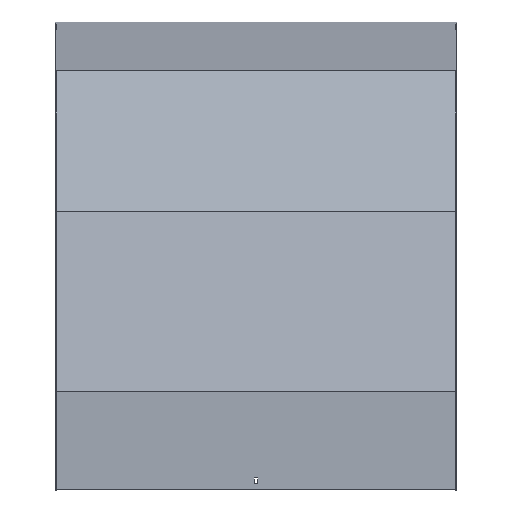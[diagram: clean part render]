
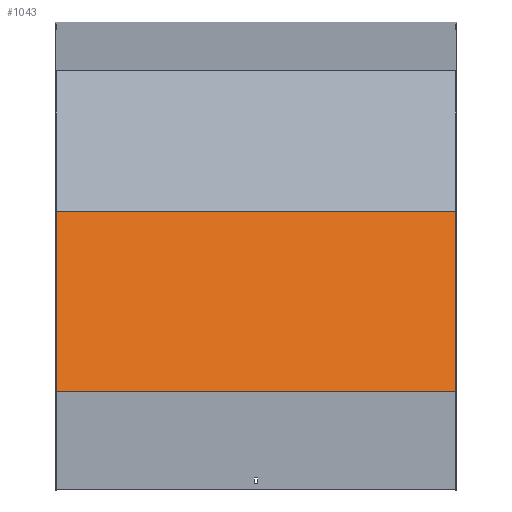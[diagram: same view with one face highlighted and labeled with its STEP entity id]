
A CAD part, top view. The second image highlights one B-rep face of the part: STEP entity #1043.
In plain terms, the highlighted planar face has unit normal (0, 0.259, 0.966).
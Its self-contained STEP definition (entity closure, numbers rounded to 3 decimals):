
#186 = CARTESIAN_POINT ( 'NONE',  ( 351.5, -311.92, 735.771 ) ) ;
#207 = VERTEX_POINT ( 'NONE', #246 ) ;
#212 = VERTEX_POINT ( 'NONE', #356 ) ;
#242 = CARTESIAN_POINT ( 'NONE',  ( 351.5, -627.77, 820.403 ) ) ;
#246 = CARTESIAN_POINT ( 'NONE',  ( 351.5, -311.92, 735.771 ) ) ;
#267 = LINE ( 'NONE', #1092, #524 ) ;
#302 = ORIENTED_EDGE ( 'NONE', *, *, #930, .T. ) ;
#307 = VECTOR ( 'NONE', #372, 1000. ) ;
#309 = LINE ( 'NONE', #412, #1009 ) ;
#326 = DIRECTION ( 'NONE',  ( -1., 0., 0. ) ) ;
#356 = CARTESIAN_POINT ( 'NONE',  ( 351.5, -627.77, 820.403 ) ) ;
#372 = DIRECTION ( 'NONE',  ( -1., 0., 0. ) ) ;
#381 = DIRECTION ( 'NONE',  ( 0., 0.966, -0.259 ) ) ;
#412 = CARTESIAN_POINT ( 'NONE',  ( 351.5, -317.096, 737.158 ) ) ;
#427 = VECTOR ( 'NONE', #326, 1000. ) ;
#491 = FACE_OUTER_BOUND ( 'NONE', #972, .T. ) ;
#524 = VECTOR ( 'NONE', #1119, 1000. ) ;
#532 = ORIENTED_EDGE ( 'NONE', *, *, #967, .T. ) ;
#545 = ORIENTED_EDGE ( 'NONE', *, *, #954, .F. ) ;
#587 = LINE ( 'NONE', #186, #307 ) ;
#612 = CARTESIAN_POINT ( 'NONE',  ( -351.5, -311.92, 735.771 ) ) ;
#664 = DIRECTION ( 'NONE',  ( 0., -0.966, 0.259 ) ) ;
#745 = CARTESIAN_POINT ( 'NONE',  ( 351.5, -317.096, 737.158 ) ) ;
#787 = VERTEX_POINT ( 'NONE', #1102 ) ;
#827 = PLANE ( 'NONE',  #1052 ) ;
#907 = VERTEX_POINT ( 'NONE', #612 ) ;
#925 = ORIENTED_EDGE ( 'NONE', *, *, #1025, .F. ) ;
#930 = EDGE_CURVE ( 'NONE', #907, #787, #267, .T. ) ;
#954 = EDGE_CURVE ( 'NONE', #207, #212, #309, .T. ) ;
#967 = EDGE_CURVE ( 'NONE', #207, #907, #587, .T. ) ;
#972 = EDGE_LOOP ( 'NONE', ( #302, #925, #545, #532 ) ) ;
#1009 = VECTOR ( 'NONE', #664, 1000. ) ;
#1025 = EDGE_CURVE ( 'NONE', #212, #787, #1097, .T. ) ;
#1043 = ADVANCED_FACE ( 'NONE', ( #491 ), #827, .F. ) ;
#1052 = AXIS2_PLACEMENT_3D ( 'NONE', #745, #1077, #381 ) ;
#1077 = DIRECTION ( 'NONE',  ( 0., -0.259, -0.966 ) ) ;
#1092 = CARTESIAN_POINT ( 'NONE',  ( -351.5, -317.096, 737.158 ) ) ;
#1097 = LINE ( 'NONE', #242, #427 ) ;
#1102 = CARTESIAN_POINT ( 'NONE',  ( -351.5, -627.77, 820.403 ) ) ;
#1119 = DIRECTION ( 'NONE',  ( 0., -0.966, 0.259 ) ) ;
